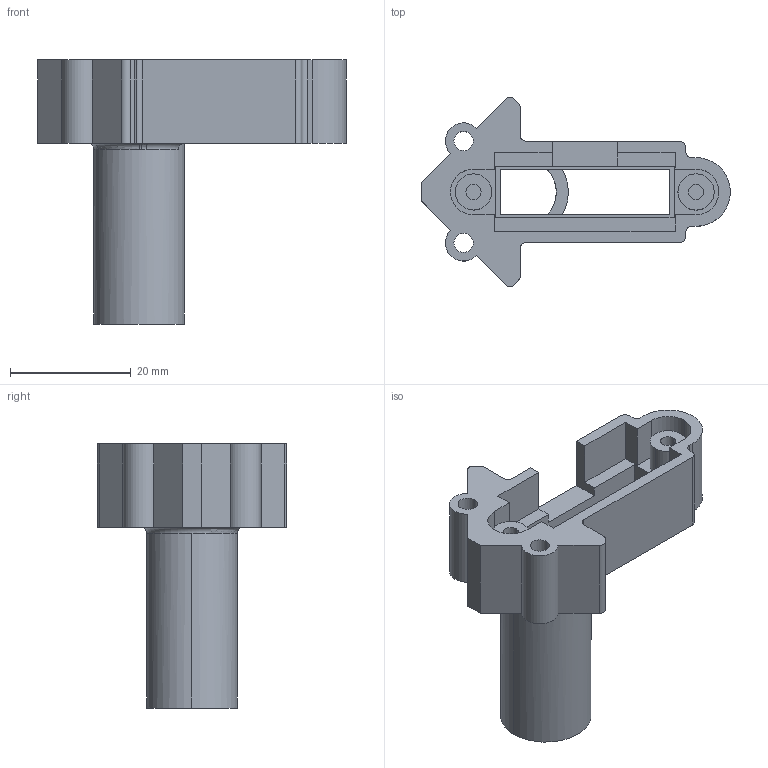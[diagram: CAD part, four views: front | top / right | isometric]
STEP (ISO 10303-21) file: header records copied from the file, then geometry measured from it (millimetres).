
FILE_DESCRIPTION (( 'STEP AP214' ), '1' );
FILE_NAME ('IR_Cover_Front_rohr.STEP', '2025-11-13T10:06:32', ( '' ), ( '' ), 'SwSTEP 2.0', 'SolidWorks 2025', '' );
FILE_SCHEMA (( 'AUTOMOTIVE_DESIGN' ));
Length unit declared in the file: millimetre
Products named in the file (1): IR_Cover_Front_rohr
Bounding box: 51.21 x 31.4 x 43.8 mm (x, y, z)
Volume: 9074.2 mm3; surface area: 7526.3 mm2
Topology: 1 solids, 1 shells, 89 faces, 247 edges, 162 vertices
Faces by surface type: plane 50, cylinder 32, bspline 4, torus 3
Entity records: 2943 total; most frequent: CARTESIAN_POINT 573, ORIENTED_EDGE 494, DIRECTION 494, EDGE_CURVE 247, AXIS2_PLACEMENT_3D 167, VERTEX_POINT 162, VECTOR 160, LINE 160
